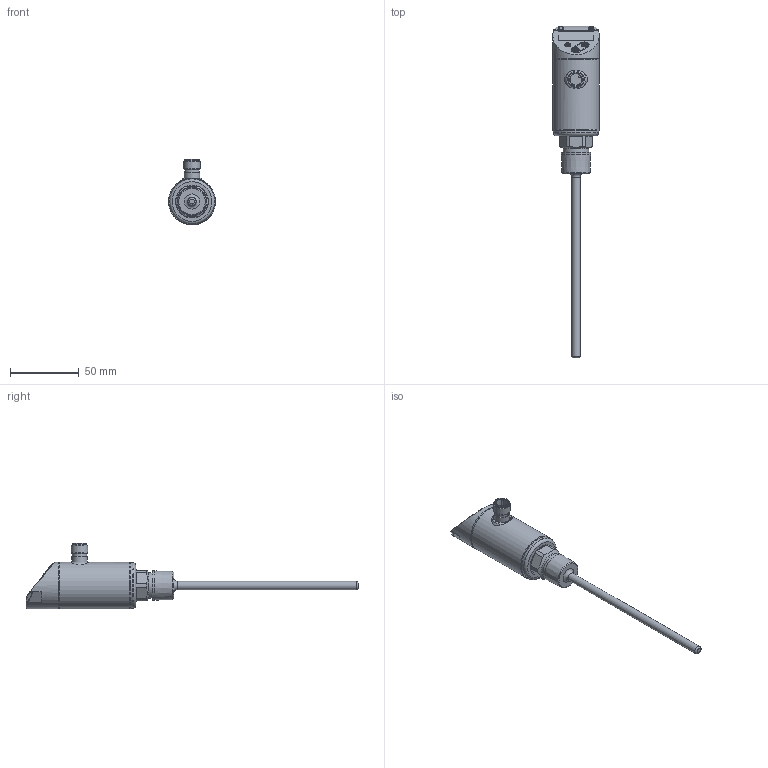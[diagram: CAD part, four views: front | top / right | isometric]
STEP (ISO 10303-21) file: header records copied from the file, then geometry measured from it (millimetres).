
FILE_DESCRIPTION( ( 'STEP AP203' ), ' ' );
FILE_NAME( 'p:/temp/worker_1286/5868_5584/app_46_02017021513412259425445192d056f_000000_00_00_000000/format_3/TN2343.stp', '2017-02-15T12:41:26', ( '' ), ( '' ), ' ', 'PARTsolutions', ' ' );
FILE_SCHEMA( ( 'CONFIG_CONTROL_DESIGN' ) );
Length unit declared in the file: millimetre
Products named in the file (2): TN2343; _TN2343_b
Assembly tree (1 placements, depth 2):
  TN2343
    _TN2343_b
Bounding box: 34.1 x 242 x 48 mm (x, y, z)
Volume: 80109.4 mm3; surface area: 15015.2 mm2
Topology: 1 solids, 1 shells, 176 faces, 432 edges, 282 vertices
Faces by surface type: plane 88, cylinder 64, torus 11, cone 10, sphere 3
Full cylindrical faces by diameter (mm): 4.45 x3, 6 x1, 8.45 x1, 10.39 x1, 10.55 x1, 10.8 x1, 11.3 x1, 12 x1, 18.9 x1, 21.292 x1, 24 x1, 32.88 x1, 33.8 x1, 34 x2, 34.1 x1
Entity records: 5374 total; most frequent: CARTESIAN_POINT 1286, DIRECTION 843, ORIENTED_EDGE 774, EDGE_CURVE 387, AXIS2_PLACEMENT_3D 328, VERTEX_POINT 275, EDGE_LOOP 238, FACE_OUTER_BOUND 206
